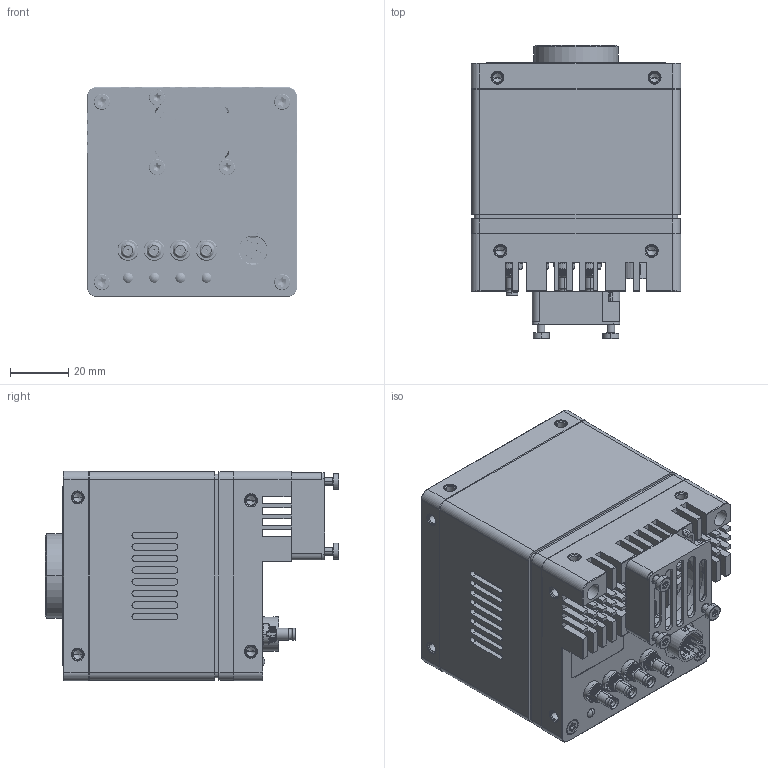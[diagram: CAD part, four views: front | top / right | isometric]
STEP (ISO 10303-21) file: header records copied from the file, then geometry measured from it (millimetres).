
FILE_DESCRIPTION((''),'2;1');
FILE_NAME('DH3-1878-6017_1_1','2024-01-22T20:07:01',('309376'),(''),'CREO PARAMETRIC BY PTC INC, 2020184','CREO PARAMETRIC BY PTC INC, 2020184','');
FILE_SCHEMA(('CONFIG_CONTROL_DESIGN','SHAPE_APPEARANCE_LAYERS_GROUPS'));
Products named in the file (1): DH3-1878-6017_1_1
Bounding box: 72 x 100.95 x 72 mm (x, y, z)
Volume: 355046.2 mm3; surface area: 69758.9 mm2
Topology: 1 solids, 99 shells, 3110 faces, 8983 edges, 5873 vertices
Faces by surface type: plane 1188, cylinder 1048, bspline 456, cone 338, torus 72, sphere 8
Entity records: 173853 total; most frequent: CARTESIAN_POINT 65881, ORIENTED_EDGE 17380, DIRECTION 14869, PRESENTATION_STYLE_ASSIGNMENT 9196, STYLED_ITEM 8902, CURVE_STYLE 8838, EDGE_CURVE 8838, VERTEX_POINT 5873
